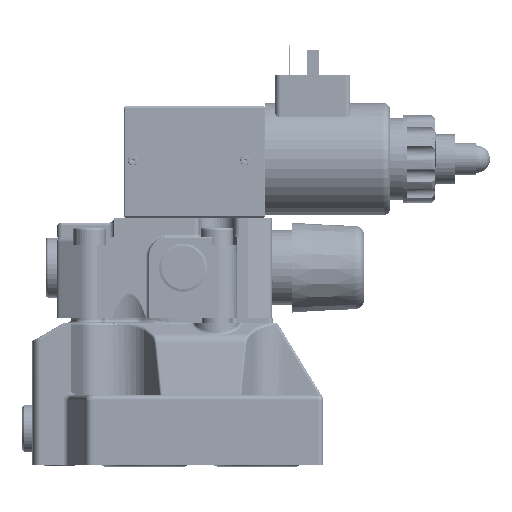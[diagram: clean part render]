
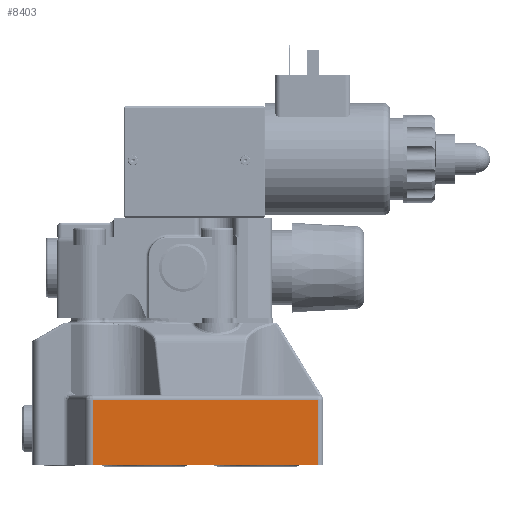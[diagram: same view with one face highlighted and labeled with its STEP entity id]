
A CAD part, front view. The second image highlights one B-rep face of the part: STEP entity #8403.
In plain terms, the highlighted planar face has unit normal (0, -1, 0).
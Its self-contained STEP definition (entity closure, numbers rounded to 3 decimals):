
#1152=LINE('',#125314,#2460);
#1241=LINE('',#126106,#2549);
#1256=LINE('',#126149,#2564);
#1257=LINE('',#126151,#2565);
#2460=VECTOR('',#36375,1.);
#2549=VECTOR('',#36722,1.);
#2564=VECTOR('',#36767,1.);
#2565=VECTOR('',#36768,1.);
#7200=PLANE('',#31732);
#8403=ADVANCED_FACE('',(#10378),#7200,.F.);
#10378=FACE_OUTER_BOUND('',#12327,.T.);
#12327=EDGE_LOOP('',(#18282,#18283,#18284,#18285));
#18282=ORIENTED_EDGE('',*,*,#26676,.T.);
#18283=ORIENTED_EDGE('',*,*,#26909,.T.);
#18284=ORIENTED_EDGE('',*,*,#26910,.T.);
#18285=ORIENTED_EDGE('',*,*,#26886,.T.);
#23537=VERTEX_POINT('',#125313);
#23538=VERTEX_POINT('',#125315);
#23719=VERTEX_POINT('',#126107);
#23732=VERTEX_POINT('',#126150);
#26676=EDGE_CURVE('',#23538,#23537,#1152,.T.);
#26886=EDGE_CURVE('',#23719,#23538,#1241,.T.);
#26909=EDGE_CURVE('',#23537,#23732,#1256,.T.);
#26910=EDGE_CURVE('',#23732,#23719,#1257,.T.);
#31732=AXIS2_PLACEMENT_3D('',#126152,#36769,#36770);
#36375=DIRECTION('',(1.,0.,0.));
#36722=DIRECTION('',(0.,0.,-1.));
#36767=DIRECTION('',(0.,0.,1.));
#36768=DIRECTION('',(-1.,0.,0.));
#36769=DIRECTION('',(0.,1.,0.));
#36770=DIRECTION('',(0.,0.,1.));
#125313=CARTESIAN_POINT('',(641.878,0.167,-15.368));
#125314=CARTESIAN_POINT('',(551.656,0.167,-15.368));
#125315=CARTESIAN_POINT('',(551.656,0.167,-15.368));
#126106=CARTESIAN_POINT('',(551.656,0.16,43.632));
#126107=CARTESIAN_POINT('',(551.656,0.164,10.632));
#126149=CARTESIAN_POINT('',(641.878,0.16,43.632));
#126150=CARTESIAN_POINT('',(641.878,0.164,10.632));
#126151=CARTESIAN_POINT('',(551.656,0.164,10.632));
#126152=CARTESIAN_POINT('',(551.656,0.16,43.632));
